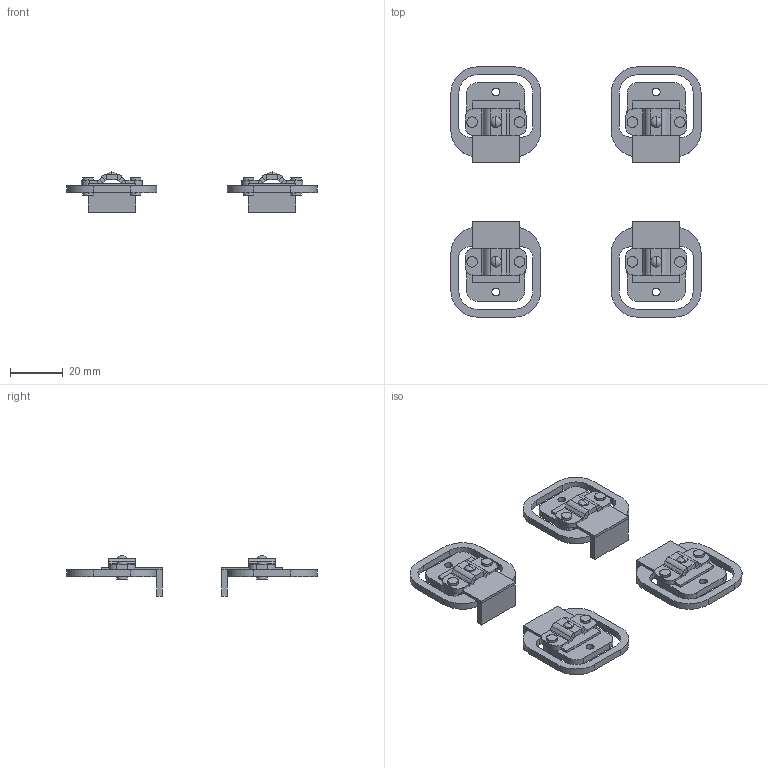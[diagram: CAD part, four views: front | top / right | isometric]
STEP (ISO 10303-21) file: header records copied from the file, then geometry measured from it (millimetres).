
FILE_DESCRIPTION(/* description */ (''),/* implementation_level */ '2;1');
FILE_NAME(/* name */ '240803-DIYUTM-LoadCells',/* time_stamp */ '2024-08-03T10:11:23+02:00',/* author */ (''),/* organization */ (''),/* preprocessor_version */ 'ST-DEVELOPER v16.5',/* originating_system */ 'Rhino 7.37',/* authorisation */ '');
FILE_SCHEMA (('CONFIG_CONTROL_DESIGN'));
Length unit declared in the file: millimetre
Products named in the file (1): Document
Bounding box: 94.54 x 94.54 x 15.22 mm (x, y, z)
Volume: 13366.4 mm3; surface area: 18499.6 mm2
Topology: 24 solids, 24 shells, 556 faces, 1332 edges, 836 vertices
Faces by surface type: plane 292, cylinder 256, bspline 8
Entity records: 14872 total; most frequent: CARTESIAN_POINT 5674, ORIENTED_EDGE 2648, EDGE_CURVE 1324, VERTEX_POINT 836, B_SPLINE_CURVE_WITH_KNOTS 788, EDGE_LOOP 632, ADVANCED_FACE 556, FACE_OUTER_BOUND 556
